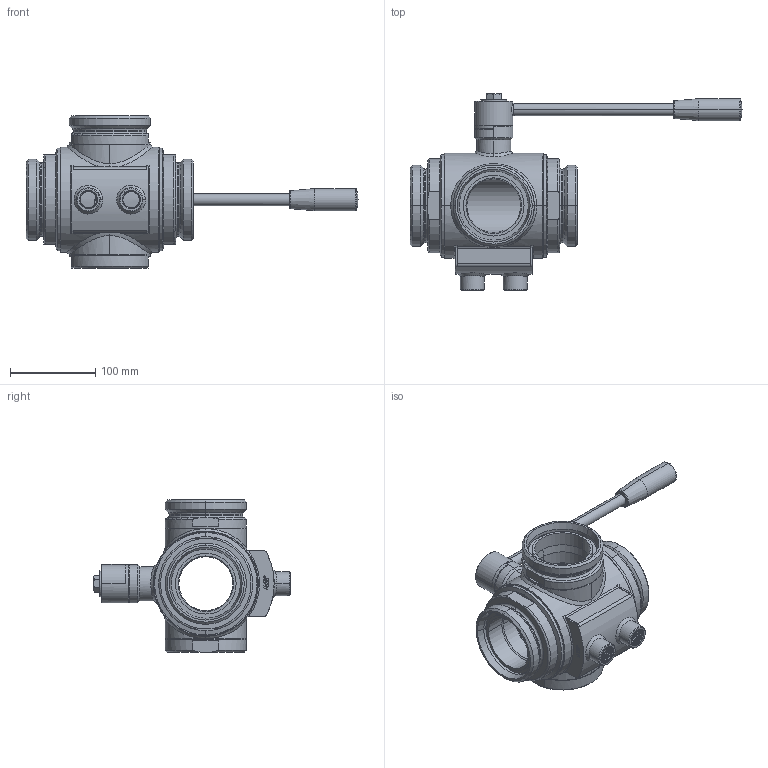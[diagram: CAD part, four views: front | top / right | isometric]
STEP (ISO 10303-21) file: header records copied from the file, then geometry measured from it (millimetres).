
FILE_DESCRIPTION((''),'2;1');
FILE_NAME('300125C64410_SW0001','2026-05-20T17:03:06',('tecnico2'),('CDM Tecnoconsulting'),'CREO PARAMETRIC BY PTC INC, 2024063','CREO PARAMETRIC BY PTC INC, 2024063','');
FILE_SCHEMA(('CONFIG_CONTROL_DESIGN'));
Products named in the file (1): 300125C64410_SW0001
Bounding box: 388.5 x 230.3 x 178 mm (x, y, z)
Volume: 1555050.1 mm3; surface area: 323524.6 mm2
Topology: 1 solids, 1 shells, 1344 faces, 3573 edges, 2280 vertices
Faces by surface type: plane 583, cylinder 301, extrusion 168, cone 155, bspline 85, torus 46, sphere 6
Entity records: 77059 total; most frequent: CARTESIAN_POINT 45108, ORIENTED_EDGE 7110, DIRECTION 5713, EDGE_CURVE 3555, VERTEX_POINT 2280, VECTOR 2123, LINE 1955, AXIS2_PLACEMENT_3D 1795
